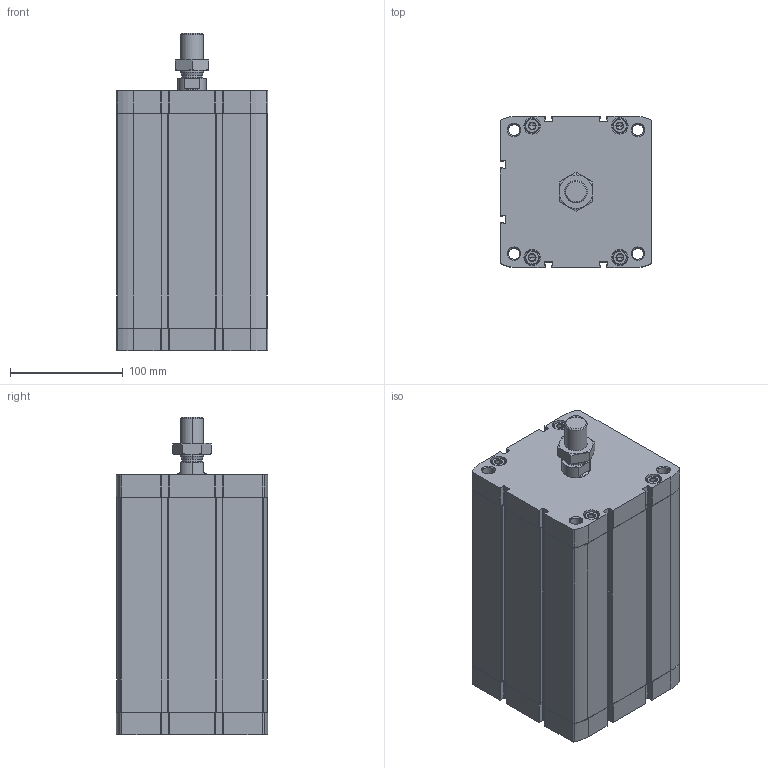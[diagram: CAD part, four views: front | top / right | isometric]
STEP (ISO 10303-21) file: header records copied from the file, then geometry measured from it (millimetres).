
FILE_DESCRIPTION (( 'STEP AP203' ), '1' );
FILE_NAME ('CCN125-150M.STEP', '2020-06-05T19:24:12', ( '' ), ( '' ), 'SwSTEP 2.0', 'SolidWorks 2019', '' );
FILE_SCHEMA (( 'CONFIG_CONTROL_DESIGN' ));
Length unit declared in the file: millimetre
Products named in the file (1): CCN125-150M
Bounding box: 134.6 x 134.6 x 282 mm (x, y, z)
Volume: 2256231.3 mm3; surface area: 364207.7 mm2
Topology: 3 solids, 3 shells, 555 faces, 1412 edges, 886 vertices
Faces by surface type: plane 275, cylinder 196, cone 80, torus 4
Entity records: 18163 total; most frequent: CARTESIAN_POINT 4452, DIRECTION 2966, ORIENTED_EDGE 2792, EDGE_CURVE 1396, AXIS2_PLACEMENT_3D 1092, VERTEX_POINT 886, VECTOR 782, LINE 782
